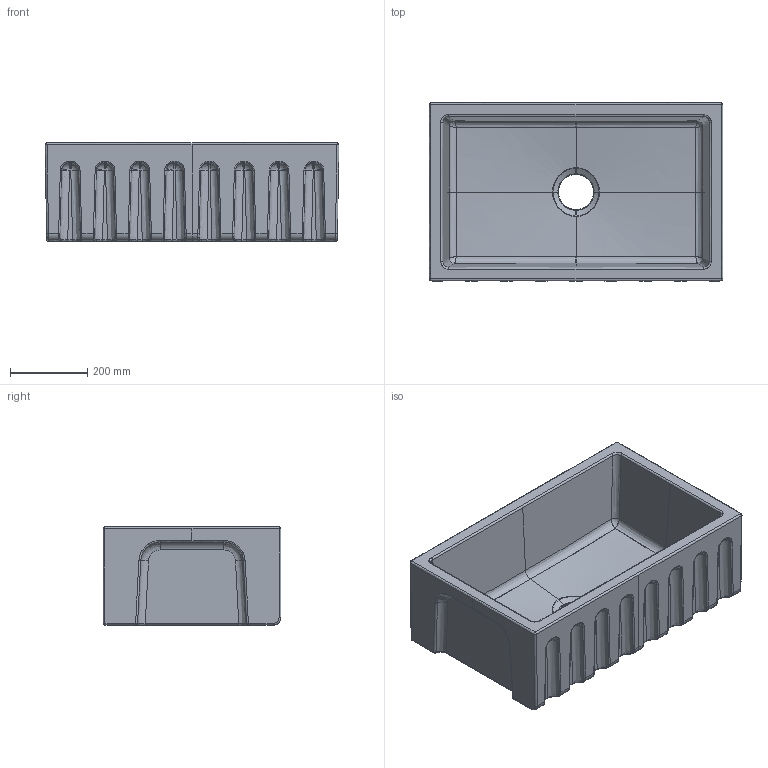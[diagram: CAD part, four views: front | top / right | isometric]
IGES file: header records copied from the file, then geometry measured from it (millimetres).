
Start section: START RECORD GO HERE.
Global section: file name: 5119_3D.igs; native system: DASSAULT SYSTEMES CATIA V5 R19 - www.3ds.com; preprocessor: CATIA Version 5 Release 19 SP 5 ; author: gioge; organization: LAPTOP-G94B6G74; date: 20201024.100232; units: millimetre
Bounding box: 759.82 x 460 x 254 mm (x, y, z)
Surface area: 1727576.2 mm2 (no closed solid volume)
Topology: 0 solids, 0 shells, 282 faces, 1309 edges, 1260 vertices
Faces by surface type: revolution 180, bspline 90, plane 12
